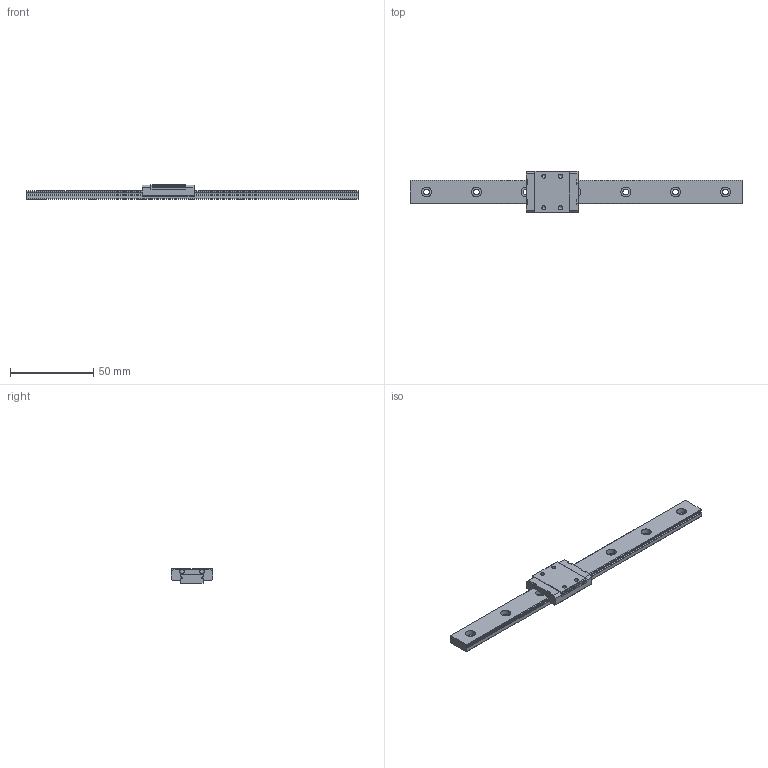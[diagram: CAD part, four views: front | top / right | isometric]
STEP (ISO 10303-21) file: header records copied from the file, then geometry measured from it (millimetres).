
FILE_DESCRIPTION((''),'2;1');
FILE_NAME('D:\製品 (図面)\カタログ用3D\リニアガイド関連\STEP形式\LGM-W\LGM7W.stp','2010-06-02T15:57:20',('Tsuchiya'),(''),'Autodesk Inventor 10','Autodesk Inventor 10','');
FILE_SCHEMA(('AUTOMOTIVE_DESIGN { 1 0 10303 214 1 1 1 1 }'));
Length unit declared in the file: millimetre
Products named in the file (3): LGM7W; LGM7W1; LGM7W2
Assembly tree (2 placements, depth 2):
  LGM7W
    LGM7W1
    LGM7W2
Bounding box: 200 x 25 x 9 mm (x, y, z)
Volume: 17163.4 mm3; surface area: 11307.6 mm2
Topology: 2 solids, 2 shells, 135 faces, 354 edges, 234 vertices
Faces by surface type: plane 70, bspline 35, cylinder 28, cone 2
Full cylindrical faces by diameter (mm): 2.459 x2, 2.5 x2
Entity records: 4364 total; most frequent: CARTESIAN_POINT 1103, ORIENTED_EDGE 644, DIRECTION 630, EDGE_CURVE 322, VERTEX_POINT 228, VECTOR 224, LINE 224, AXIS2_PLACEMENT_3D 203
